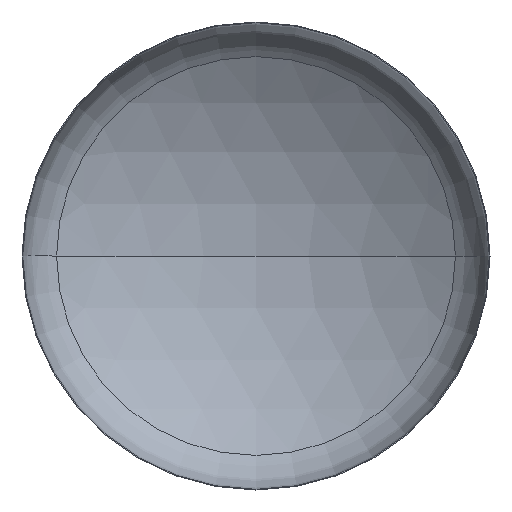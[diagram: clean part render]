
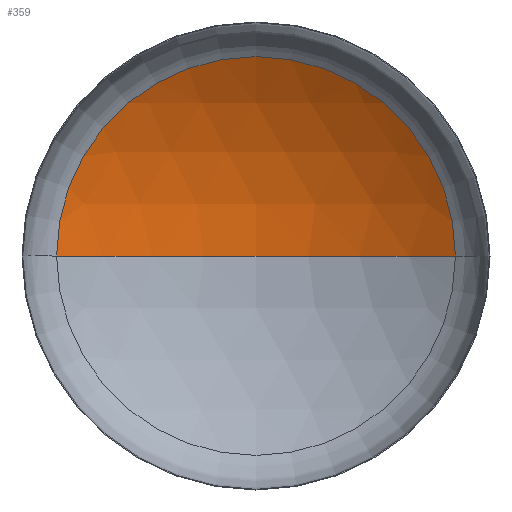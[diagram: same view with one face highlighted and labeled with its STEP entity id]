
A CAD part, front view. The second image highlights one B-rep face of the part: STEP entity #359.
In plain terms, the highlighted spherical face has radius 1600 mm.
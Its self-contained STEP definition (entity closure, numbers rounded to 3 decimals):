
#12 = AXIS2_PLACEMENT_3D ( 'NONE', #253, #402, #298 ) ;
#17 = DIRECTION ( 'NONE',  ( -1., 0., 0. ) ) ;
#24 = DIRECTION ( 'NONE',  ( 0., 0., -1. ) ) ;
#35 = CARTESIAN_POINT ( 'NONE',  ( -852.093, 282.382, 0. ) ) ;
#39 = AXIS2_PLACEMENT_3D ( 'NONE', #406, #366, #189 ) ;
#41 = AXIS2_PLACEMENT_3D ( 'NONE', #107, #24, #17 ) ;
#44 = AXIS2_PLACEMENT_3D ( 'NONE', #65, #299, #115 ) ;
#45 = ORIENTED_EDGE ( 'NONE', *, *, #122, .T. ) ;
#46 = EDGE_LOOP ( 'NONE', ( #180, #45, #167 ) ) ;
#61 = CARTESIAN_POINT ( 'NONE',  ( 852.093, 282.382, 0. ) ) ;
#65 = CARTESIAN_POINT ( 'NONE',  ( 0., 282.382, 0. ) ) ;
#102 = EDGE_CURVE ( 'NONE', #316, #181, #330, .T. ) ;
#107 = CARTESIAN_POINT ( 'NONE',  ( 0., -1071.848, 0. ) ) ;
#115 = DIRECTION ( 'NONE',  ( 1., 0., 0. ) ) ;
#122 = EDGE_CURVE ( 'NONE', #179, #316, #263, .T. ) ;
#130 = EDGE_CURVE ( 'NONE', #179, #181, #184, .T. ) ;
#167 = ORIENTED_EDGE ( 'NONE', *, *, #102, .T. ) ;
#179 = VERTEX_POINT ( 'NONE', #242 ) ;
#180 = ORIENTED_EDGE ( 'NONE', *, *, #130, .F. ) ;
#181 = VERTEX_POINT ( 'NONE', #35 ) ;
#184 = CIRCLE ( 'NONE', #39, 1600. ) ;
#189 = DIRECTION ( 'NONE',  ( 1., 0., 0. ) ) ;
#235 = FACE_OUTER_BOUND ( 'NONE', #46, .T. ) ;
#242 = CARTESIAN_POINT ( 'NONE',  ( 0., 528.152, 0. ) ) ;
#253 = CARTESIAN_POINT ( 'NONE',  ( 0., -1071.848, 0. ) ) ;
#263 = CIRCLE ( 'NONE', #41, 1600. ) ;
#298 = DIRECTION ( 'NONE',  ( -1., 0., 0. ) ) ;
#299 = DIRECTION ( 'NONE',  ( 0., -1., 0. ) ) ;
#316 = VERTEX_POINT ( 'NONE', #61 ) ;
#330 = CIRCLE ( 'NONE', #44, 852.093 ) ;
#359 = ADVANCED_FACE ( 'NONE', ( #235 ), #364, .F. ) ;
#364 = SPHERICAL_SURFACE ( 'NONE', #12, 1600. ) ;
#366 = DIRECTION ( 'NONE',  ( 0., 0., 1. ) ) ;
#402 = DIRECTION ( 'NONE',  ( 0., 0., -1. ) ) ;
#406 = CARTESIAN_POINT ( 'NONE',  ( 0., -1071.848, 0. ) ) ;
